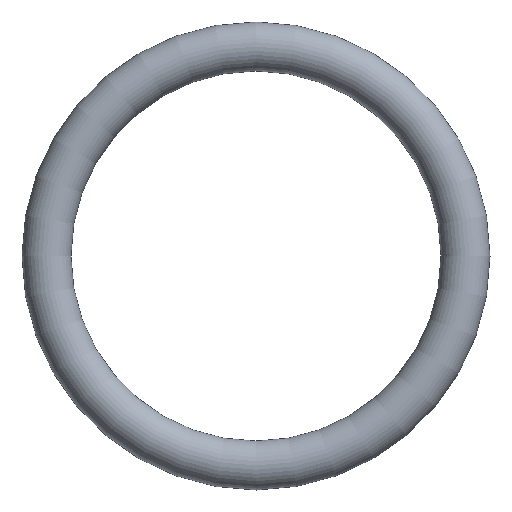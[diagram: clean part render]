
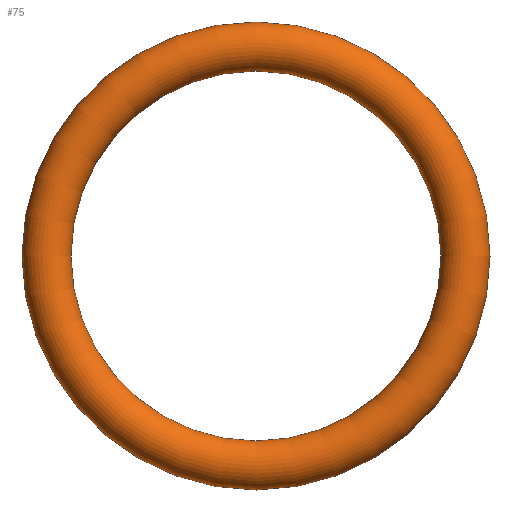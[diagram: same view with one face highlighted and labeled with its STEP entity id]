
A CAD part, front view. The second image highlights one B-rep face of the part: STEP entity #75.
In plain terms, the highlighted toroidal (fillet/blend) face has major radius 11.325 mm and minor radius 1.325 mm.
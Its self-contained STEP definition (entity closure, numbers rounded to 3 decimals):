
#75 = ADVANCED_FACE( '', ( #77 ), #78, .T. );
#77 = FACE_BOUND( '', #79, .T. );
#78 = TOROIDAL_SURFACE( '', #80, 11.325, 1.325 );
#79 = VERTEX_LOOP( '', #81 );
#80 = AXIS2_PLACEMENT_3D( '', #82, #83, #84 );
#81 = VERTEX_POINT( '', #85 );
#82 = CARTESIAN_POINT( '', ( 0., 0., 0. ) );
#83 = DIRECTION( '', ( 0., -1., 0. ) );
#84 = DIRECTION( '', ( 0., 0., -1. ) );
#85 = CARTESIAN_POINT( '', ( 0., 0., -12.65 ) );
